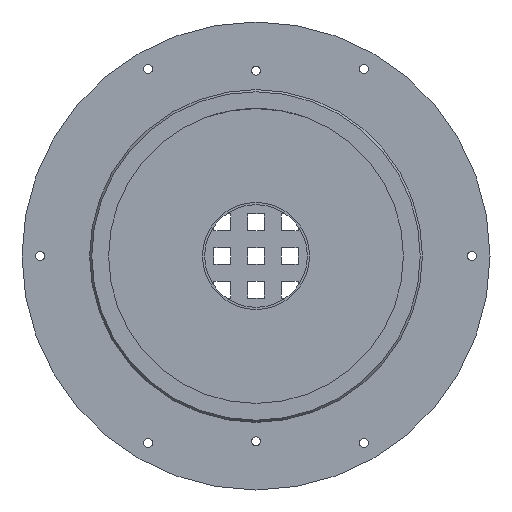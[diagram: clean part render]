
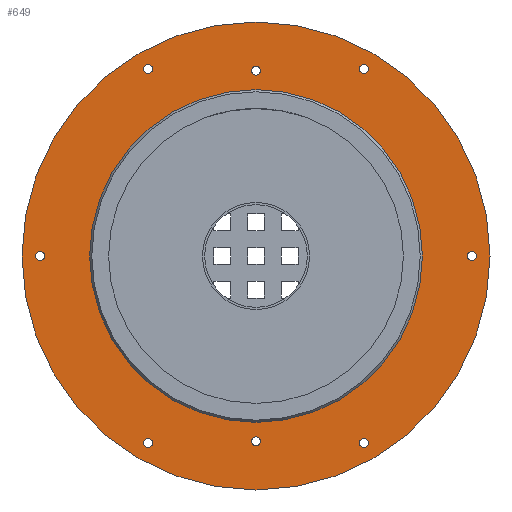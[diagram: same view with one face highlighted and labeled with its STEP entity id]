
A CAD part, front view. The second image highlights one B-rep face of the part: STEP entity #649.
In plain terms, the highlighted planar face has unit normal (0, -1, 0).
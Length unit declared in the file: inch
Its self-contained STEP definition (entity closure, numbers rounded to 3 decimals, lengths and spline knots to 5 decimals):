
#212=CARTESIAN_POINT('',(4.12008,1.20008,0.));
#213=VERTEX_POINT('',#212);
#214=CARTESIAN_POINT('',(4.03543,1.20008,0.));
#215=DIRECTION('',(0.0,1.0,0.0));
#216=DIRECTION('',(-1.0,0.0,0.0));
#217=AXIS2_PLACEMENT_3D('',#214,#215,#216);
#218=CIRCLE('',#217,0.08465);
#219=EDGE_CURVE('',#213,#213,#218,.T.);
#261=CARTESIAN_POINT('',(2.10236,1.20008,3.49478));
#262=VERTEX_POINT('',#261);
#263=CARTESIAN_POINT('',(2.01772,1.20008,3.49478));
#264=DIRECTION('',(0.0,1.0,0.0));
#265=DIRECTION('',(-1.0,0.0,0.0));
#266=AXIS2_PLACEMENT_3D('',#263,#264,#265);
#267=CIRCLE('',#266,0.08465);
#268=EDGE_CURVE('',#262,#262,#267,.T.);
#310=CARTESIAN_POINT('',(0.08465,1.20008,3.46457));
#311=VERTEX_POINT('',#310);
#312=CARTESIAN_POINT('',(0.,1.20008,3.46457));
#313=DIRECTION('',(0.0,1.0,0.0));
#314=DIRECTION('',(-1.0,0.0,0.0));
#315=AXIS2_PLACEMENT_3D('',#312,#313,#314);
#316=CIRCLE('',#315,0.08465);
#317=EDGE_CURVE('',#311,#311,#316,.T.);
#359=CARTESIAN_POINT('',(-1.93307,1.20008,3.49478));
#360=VERTEX_POINT('',#359);
#361=CARTESIAN_POINT('',(-2.01772,1.20008,3.49478));
#362=DIRECTION('',(0.0,1.0,0.0));
#363=DIRECTION('',(-1.0,0.0,0.0));
#364=AXIS2_PLACEMENT_3D('',#361,#362,#363);
#365=CIRCLE('',#364,0.08465);
#366=EDGE_CURVE('',#360,#360,#365,.T.);
#408=CARTESIAN_POINT('',(0.08465,1.20008,-3.46457));
#409=VERTEX_POINT('',#408);
#410=CARTESIAN_POINT('',(0.,1.20008,-3.46457));
#411=DIRECTION('',(0.0,1.0,0.0));
#412=DIRECTION('',(-1.0,0.0,0.0));
#413=AXIS2_PLACEMENT_3D('',#410,#411,#412);
#414=CIRCLE('',#413,0.08465);
#415=EDGE_CURVE('',#409,#409,#414,.T.);
#457=CARTESIAN_POINT('',(-1.93307,1.20008,-3.49478));
#458=VERTEX_POINT('',#457);
#459=CARTESIAN_POINT('',(-2.01772,1.20008,-3.49478));
#460=DIRECTION('',(0.0,1.0,0.0));
#461=DIRECTION('',(-1.0,0.0,0.0));
#462=AXIS2_PLACEMENT_3D('',#459,#460,#461);
#463=CIRCLE('',#462,0.08465);
#464=EDGE_CURVE('',#458,#458,#463,.T.);
#506=CARTESIAN_POINT('',(-3.95079,1.20008,0.));
#507=VERTEX_POINT('',#506);
#508=CARTESIAN_POINT('',(-4.03543,1.20008,0.));
#509=DIRECTION('',(0.0,1.0,0.0));
#510=DIRECTION('',(-1.0,0.0,0.0));
#511=AXIS2_PLACEMENT_3D('',#508,#509,#510);
#512=CIRCLE('',#511,0.08465);
#513=EDGE_CURVE('',#507,#507,#512,.T.);
#555=CARTESIAN_POINT('',(2.10236,1.20008,-3.49478));
#556=VERTEX_POINT('',#555);
#557=CARTESIAN_POINT('',(2.01772,1.20008,-3.49478));
#558=DIRECTION('',(0.0,1.0,0.0));
#559=DIRECTION('',(-1.0,0.0,0.0));
#560=AXIS2_PLACEMENT_3D('',#557,#558,#559);
#561=CIRCLE('',#560,0.08465);
#562=EDGE_CURVE('',#556,#556,#561,.T.);
#583=CARTESIAN_POINT('',(4.375,1.20008,0.));
#584=VERTEX_POINT('',#583);
#585=CARTESIAN_POINT('',(0.,1.20008,0.));
#586=DIRECTION('',(0.0,-1.0,0.0));
#587=DIRECTION('',(1.0,0.0,0.0));
#588=AXIS2_PLACEMENT_3D('',#585,#586,#587);
#589=CIRCLE('',#588,4.375);
#590=EDGE_CURVE('',#584,#584,#589,.T.);
#606=CARTESIAN_POINT('',(3.74301,1.20008,0.));
#607=DIRECTION('',(0.0,-1.0,0.0));
#608=DIRECTION('',(0.0,0.0,-1.0));
#609=AXIS2_PLACEMENT_3D('',#606,#607,#608);
#610=PLANE('',#609);
#611=ORIENTED_EDGE('',*,*,#590,.T.);
#612=EDGE_LOOP('',(#611));
#613=FACE_OUTER_BOUND('',#612,.T.);
#614=ORIENTED_EDGE('',*,*,#219,.T.);
#615=EDGE_LOOP('',(#614));
#616=FACE_BOUND('',#615,.T.);
#617=ORIENTED_EDGE('',*,*,#268,.T.);
#618=EDGE_LOOP('',(#617));
#619=FACE_BOUND('',#618,.T.);
#620=ORIENTED_EDGE('',*,*,#317,.T.);
#621=EDGE_LOOP('',(#620));
#622=FACE_BOUND('',#621,.T.);
#623=ORIENTED_EDGE('',*,*,#366,.T.);
#624=EDGE_LOOP('',(#623));
#625=FACE_BOUND('',#624,.T.);
#626=ORIENTED_EDGE('',*,*,#415,.T.);
#627=EDGE_LOOP('',(#626));
#628=FACE_BOUND('',#627,.T.);
#629=ORIENTED_EDGE('',*,*,#464,.T.);
#630=EDGE_LOOP('',(#629));
#631=FACE_BOUND('',#630,.T.);
#632=ORIENTED_EDGE('',*,*,#513,.T.);
#633=EDGE_LOOP('',(#632));
#634=FACE_BOUND('',#633,.T.);
#635=ORIENTED_EDGE('',*,*,#562,.T.);
#636=EDGE_LOOP('',(#635));
#637=FACE_BOUND('',#636,.T.);
#638=CARTESIAN_POINT('',(3.11103,1.20008,0.));
#639=VERTEX_POINT('',#638);
#640=CARTESIAN_POINT('',(0.,1.20008,0.));
#641=DIRECTION('',(0.0,-1.0,0.0));
#642=DIRECTION('',(1.0,0.0,0.0));
#643=AXIS2_PLACEMENT_3D('',#640,#641,#642);
#644=CIRCLE('',#643,3.11103);
#645=EDGE_CURVE('',#639,#639,#644,.T.);
#646=ORIENTED_EDGE('',*,*,#645,.F.);
#647=EDGE_LOOP('',(#646));
#648=FACE_BOUND('',#647,.T.);
#649=ADVANCED_FACE('',(#613,#616,#619,#622,#625,#628,#631,#634,#637,#648),#610,.T.);
